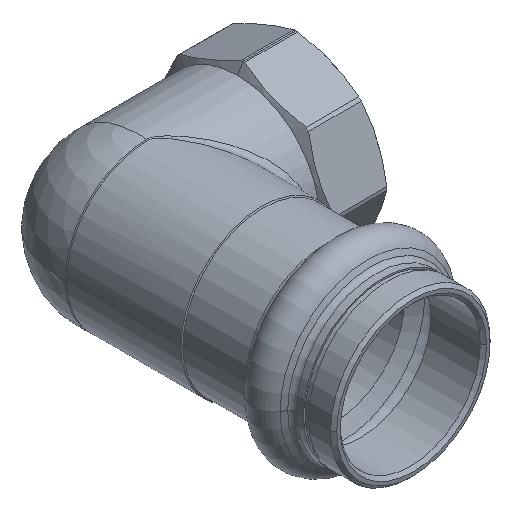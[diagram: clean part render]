
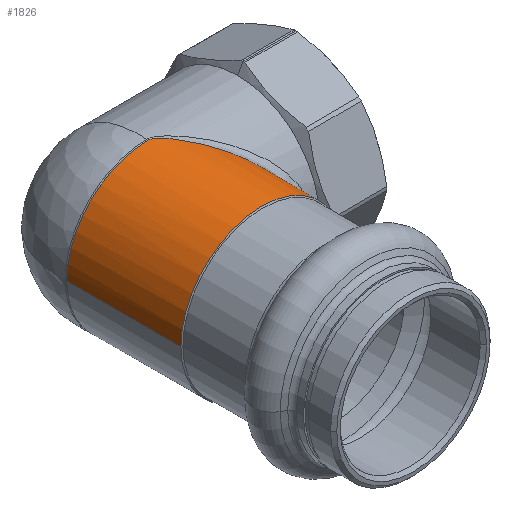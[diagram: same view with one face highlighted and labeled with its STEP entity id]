
A CAD part, isometric view. The second image highlights one B-rep face of the part: STEP entity #1826.
In plain terms, the highlighted cylindrical face has radius 12.9 mm (diameter 25.8 mm), a partial arc.
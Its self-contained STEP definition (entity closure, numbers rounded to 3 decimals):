
#122 = CARTESIAN_POINT ( 'NONE',  ( -7.871, -1.724, 10.255 ) ) ;
#132 = CARTESIAN_POINT ( 'NONE',  ( -12.9, -1.721, 0.42 ) ) ;
#167 = CARTESIAN_POINT ( 'NONE',  ( 9.864, -11.524, 8.324 ) ) ;
#175 = CARTESIAN_POINT ( 'NONE',  ( 2.907, -3.771, 12.574 ) ) ;
#201 = LINE ( 'NONE', #2176, #1040 ) ;
#262 = AXIS2_PLACEMENT_3D ( 'NONE', #2408, #733, #2682 ) ;
#323 = CARTESIAN_POINT ( 'NONE',  ( -12.9, -1.721, 0. ) ) ;
#397 = CARTESIAN_POINT ( 'NONE',  ( -9.726, -1.723, 8.516 ) ) ;
#435 = CARTESIAN_POINT ( 'NONE',  ( 12.869, -14.965, 1.029 ) ) ;
#448 = CARTESIAN_POINT ( 'NONE',  ( 9.028, -10.57, 9.223 ) ) ;
#464 = CARTESIAN_POINT ( 'NONE',  ( 2.177, -3.049, 12.716 ) ) ;
#507 = AXIS2_PLACEMENT_3D ( 'NONE', #1865, #2148, #2961 ) ;
#530 = LINE ( 'NONE', #1107, #2024 ) ;
#666 = ORIENTED_EDGE ( 'NONE', *, *, #3463, .T. ) ;
#685 = CARTESIAN_POINT ( 'NONE',  ( -0.851, -1.729, 12.9 ) ) ;
#688 = B_SPLINE_CURVE_WITH_KNOTS ( 'NONE', 3,
 ( #1234, #685, #963, #2914, #1246, #3181, #1539, #3474, #1818, #122, #2094, #397, #2374, #701, #2654, #975, #2928, #1267, #3193, #1553, #3492, #1832, #132, #2111 ),
 .UNSPECIFIED., .F., .F.,
 ( 4, 2, 2, 2, 2, 2, 2, 2, 2, 2, 2, 4 ),
 ( 0., 0.003, 0.005, 0.006, 0.008, 0.01, 0.013, 0.014, 0.015, 0.018, 0.019, 0.02 ),
 .UNSPECIFIED. ) ;
#701 = CARTESIAN_POINT ( 'NONE',  ( -10.959, -1.722, 6.817 ) ) ;
#729 = CARTESIAN_POINT ( 'NONE',  ( 12.738, -14.814, 2.055 ) ) ;
#733 = DIRECTION ( 'NONE',  ( 0., 1., 0. ) ) ;
#744 = CARTESIAN_POINT ( 'NONE',  ( 7.856, -9.237, 10.261 ) ) ;
#755 = CARTESIAN_POINT ( 'NONE',  ( 1.602, -2.527, 12.802 ) ) ;
#834 = VERTEX_POINT ( 'NONE', #2552 ) ;
#864 = CYLINDRICAL_SURFACE ( 'NONE', #507, 12.9 ) ;
#963 = CARTESIAN_POINT ( 'NONE',  ( -1.703, -1.728, 12.815 ) ) ;
#975 = CARTESIAN_POINT ( 'NONE',  ( -11.576, -1.721, 5.709 ) ) ;
#1000 = CARTESIAN_POINT ( 'NONE',  ( 12.594, -14.649, 2.804 ) ) ;
#1011 = CARTESIAN_POINT ( 'NONE',  ( 6.281, -7.457, 11.274 ) ) ;
#1023 = CARTESIAN_POINT ( 'NONE',  ( 0.986, -2.057, 12.864 ) ) ;
#1027 = CARTESIAN_POINT ( 'NONE',  ( 12.9, -15., 0. ) ) ;
#1040 = VECTOR ( 'NONE', #1485, 1000. ) ;
#1066 = VERTEX_POINT ( 'NONE', #3013 ) ;
#1086 = ORIENTED_EDGE ( 'NONE', *, *, #1911, .T. ) ;
#1107 = CARTESIAN_POINT ( 'NONE',  ( 12.9, 24.271, 0. ) ) ;
#1169 = EDGE_LOOP ( 'NONE', ( #1948, #666, #1086, #1287, #1538 ) ) ;
#1234 = CARTESIAN_POINT ( 'NONE',  ( 0.001, -1.729, 12.9 ) ) ;
#1246 = CARTESIAN_POINT ( 'NONE',  ( -4.159, -1.726, 12.24 ) ) ;
#1267 = CARTESIAN_POINT ( 'NONE',  ( -12.243, -1.721, 4.152 ) ) ;
#1287 = ORIENTED_EDGE ( 'NONE', *, *, #3395, .T. ) ;
#1291 = CARTESIAN_POINT ( 'NONE',  ( 12.274, -14.282, 3.999 ) ) ;
#1304 = CARTESIAN_POINT ( 'NONE',  ( 5.296, -6.356, 11.768 ) ) ;
#1313 = CARTESIAN_POINT ( 'NONE',  ( 0.266, -1.729, 12.9 ) ) ;
#1395 = EDGE_CURVE ( 'NONE', #834, #3239, #201, .T. ) ;
#1485 = DIRECTION ( 'NONE',  ( 0., 1., 0. ) ) ;
#1538 = ORIENTED_EDGE ( 'NONE', *, *, #1395, .F. ) ;
#1539 = CARTESIAN_POINT ( 'NONE',  ( -5.717, -1.725, 11.572 ) ) ;
#1553 = CARTESIAN_POINT ( 'NONE',  ( -12.734, -1.721, 2.108 ) ) ;
#1583 = CARTESIAN_POINT ( 'NONE',  ( 11.75, -13.681, 5.345 ) ) ;
#1596 = CARTESIAN_POINT ( 'NONE',  ( 4.291, -5.248, 12.171 ) ) ;
#1621 = B_SPLINE_CURVE_WITH_KNOTS ( 'NONE', 3,
 ( #3505, #2125, #435, #2405, #729, #2680, #1000, #2955, #1291, #3223, #1583, #3514, #1858, #167, #2137, #448, #2417, #744, #2691, #1011, #2965, #1304, #3233, #1596, #3529, #1869, #175, #2150, #464, #2424, #755, #2704, #1023, #2974, #1313, #3248 ),
 .UNSPECIFIED., .F., .F.,
 ( 4, 2, 2, 2, 2, 2, 2, 2, 2, 2, 2, 2, 2, 2, 2, 2, 2, 4 ),
 ( 0.025, 0.027, 0.027, 0.028, 0.03, 0.031, 0.035, 0.036, 0.038, 0.041, 0.042, 0.044, 0.045, 0.047, 0.048, 0.049, 0.049, 0.05 ),
 .UNSPECIFIED. ) ;
#1688 = CARTESIAN_POINT ( 'NONE',  ( 12.9, -19.885, 0. ) ) ;
#1818 = CARTESIAN_POINT ( 'NONE',  ( -6.824, -1.725, 10.956 ) ) ;
#1826 = ADVANCED_FACE ( 'NONE', ( #2525 ), #864, .T. ) ;
#1832 = CARTESIAN_POINT ( 'NONE',  ( -12.879, -1.721, 0.842 ) ) ;
#1858 = CARTESIAN_POINT ( 'NONE',  ( 10.655, -12.427, 7.322 ) ) ;
#1865 = CARTESIAN_POINT ( 'NONE',  ( 0., 24.271, 0. ) ) ;
#1869 = CARTESIAN_POINT ( 'NONE',  ( 3.259, -4.139, 12.487 ) ) ;
#1911 = EDGE_CURVE ( 'NONE', #2858, #1066, #1621, .T. ) ;
#1948 = ORIENTED_EDGE ( 'NONE', *, *, #2792, .T. ) ;
#2024 = VECTOR ( 'NONE', #3617, 1000. ) ;
#2094 = CARTESIAN_POINT ( 'NONE',  ( -8.523, -1.723, 9.72 ) ) ;
#2111 = CARTESIAN_POINT ( 'NONE',  ( -12.9, -1.721, 0. ) ) ;
#2125 = CARTESIAN_POINT ( 'NONE',  ( 12.9, -15., 0.515 ) ) ;
#2137 = CARTESIAN_POINT ( 'NONE',  ( 9.59, -11.211, 8.638 ) ) ;
#2148 = DIRECTION ( 'NONE',  ( 0., 1., 0. ) ) ;
#2150 = CARTESIAN_POINT ( 'NONE',  ( 2.362, -3.228, 12.683 ) ) ;
#2175 = CIRCLE ( 'NONE', #262, 12.9 ) ;
#2176 = CARTESIAN_POINT ( 'NONE',  ( -12.9, 24.271, 0. ) ) ;
#2374 = CARTESIAN_POINT ( 'NONE',  ( -10.259, -1.722, 7.865 ) ) ;
#2405 = CARTESIAN_POINT ( 'NONE',  ( 12.777, -14.859, 1.798 ) ) ;
#2408 = CARTESIAN_POINT ( 'NONE',  ( 0., -19.885, 0. ) ) ;
#2417 = CARTESIAN_POINT ( 'NONE',  ( 8.74, -10.242, 9.496 ) ) ;
#2424 = CARTESIAN_POINT ( 'NONE',  ( 1.797, -2.699, 12.776 ) ) ;
#2525 = FACE_OUTER_BOUND ( 'NONE', #1169, .T. ) ;
#2552 = CARTESIAN_POINT ( 'NONE',  ( -12.9, -19.885, 0. ) ) ;
#2654 = CARTESIAN_POINT ( 'NONE',  ( -11.176, -1.722, 6.456 ) ) ;
#2680 = CARTESIAN_POINT ( 'NONE',  ( 12.647, -14.709, 2.557 ) ) ;
#2682 = DIRECTION ( 'NONE',  ( -1., 0., 0. ) ) ;
#2691 = CARTESIAN_POINT ( 'NONE',  ( 7.241, -8.539, 10.702 ) ) ;
#2704 = CARTESIAN_POINT ( 'NONE',  ( 1.196, -2.207, 12.846 ) ) ;
#2792 = EDGE_CURVE ( 'NONE', #834, #3120, #2175, .T. ) ;
#2858 = VERTEX_POINT ( 'NONE', #1027 ) ;
#2914 = CARTESIAN_POINT ( 'NONE',  ( -3.355, -1.727, 12.484 ) ) ;
#2928 = CARTESIAN_POINT ( 'NONE',  ( -11.758, -1.721, 5.323 ) ) ;
#2955 = CARTESIAN_POINT ( 'NONE',  ( 12.417, -14.446, 3.531 ) ) ;
#2961 = DIRECTION ( 'NONE',  ( -1., 0., 0. ) ) ;
#2965 = CARTESIAN_POINT ( 'NONE',  ( 5.954, -7.091, 11.45 ) ) ;
#2974 = CARTESIAN_POINT ( 'NONE',  ( 0.522, -1.816, 12.892 ) ) ;
#3013 = CARTESIAN_POINT ( 'NONE',  ( 0.001, -1.729, 12.9 ) ) ;
#3120 = VERTEX_POINT ( 'NONE', #1688 ) ;
#3181 = CARTESIAN_POINT ( 'NONE',  ( -5.331, -1.726, 11.755 ) ) ;
#3193 = CARTESIAN_POINT ( 'NONE',  ( -12.486, -1.721, 3.348 ) ) ;
#3223 = CARTESIAN_POINT ( 'NONE',  ( 11.941, -13.9, 4.906 ) ) ;
#3233 = CARTESIAN_POINT ( 'NONE',  ( 4.964, -5.987, 11.912 ) ) ;
#3239 = VERTEX_POINT ( 'NONE', #323 ) ;
#3248 = CARTESIAN_POINT ( 'NONE',  ( 0.001, -1.729, 12.9 ) ) ;
#3395 = EDGE_CURVE ( 'NONE', #1066, #3239, #688, .T. ) ;
#3463 = EDGE_CURVE ( 'NONE', #3120, #2858, #530, .T. ) ;
#3474 = CARTESIAN_POINT ( 'NONE',  ( -6.463, -1.725, 11.172 ) ) ;
#3492 = CARTESIAN_POINT ( 'NONE',  ( -12.796, -1.721, 1.687 ) ) ;
#3505 = CARTESIAN_POINT ( 'NONE',  ( 12.9, -15., 0. ) ) ;
#3514 = CARTESIAN_POINT ( 'NONE',  ( 11.131, -12.973, 6.585 ) ) ;
#3529 = CARTESIAN_POINT ( 'NONE',  ( 3.951, -4.878, 12.285 ) ) ;
#3617 = DIRECTION ( 'NONE',  ( 0., 1., 0. ) ) ;
